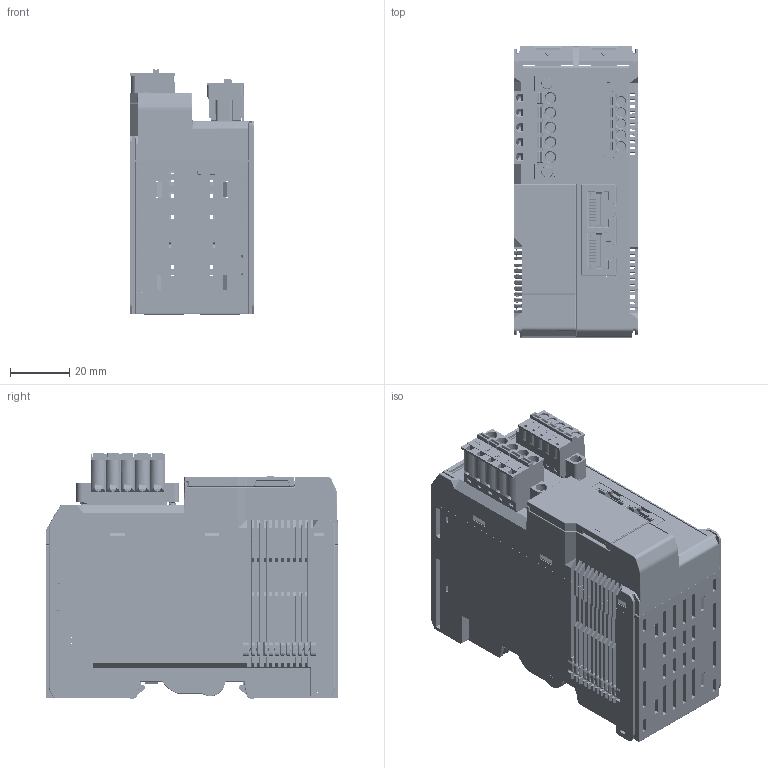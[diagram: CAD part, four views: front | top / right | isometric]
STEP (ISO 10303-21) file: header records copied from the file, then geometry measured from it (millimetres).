
FILE_DESCRIPTION((''),'2;1');
FILE_NAME('3D_IOTHINX_4510','2018-10-16T',('ChrisYC_Huang'),('PTC'),'PRO/ENGINEER BY PARAMETRIC TECHNOLOGY CORPORATION, 2017170','PRO/ENGINEER BY PARAMETRIC TECHNOLOGY CORPORATION, 2017170','');
FILE_SCHEMA(('AUTOMOTIVE_DESIGN { 1 0 10303 214 1 1 1 1 }'));
Products named in the file (1): 3D_IOTHINX_4510
Bounding box: 42.3 x 99 x 83.5 mm (x, y, z)
Volume: 93459.3 mm3; surface area: 145776.9 mm2
Topology: 45 solids, 45 shells, 14375 faces, 42765 edges, 27923 vertices
Faces by surface type: plane 10175, cylinder 3238, sphere 405, cone 325, bspline 119, torus 113
Entity records: 608523 total; most frequent: CARTESIAN_POINT 150207, ORIENTED_EDGE 84776, DIRECTION 77221, EDGE_CURVE 42388, VECTOR 33035, LINE 33035, VERTEX_POINT 27923, AXIS2_PLACEMENT_3D 22093
